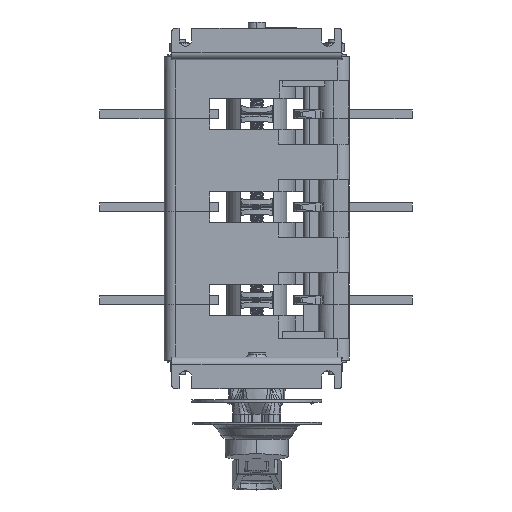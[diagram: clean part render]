
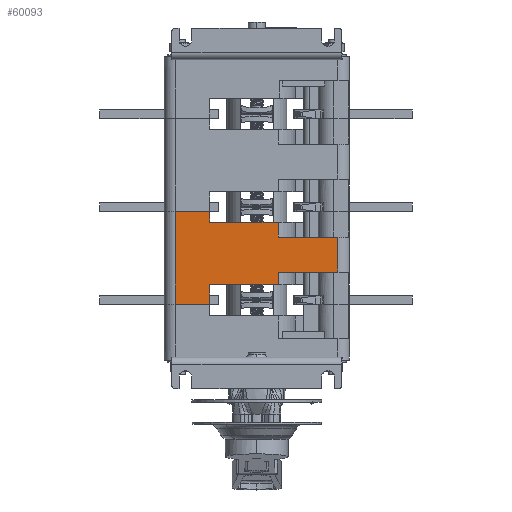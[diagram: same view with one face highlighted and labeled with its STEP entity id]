
A CAD part, front view. The second image highlights one B-rep face of the part: STEP entity #60093.
In plain terms, the highlighted planar face has unit normal (0, -1, 0).
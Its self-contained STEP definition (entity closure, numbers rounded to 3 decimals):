
#758 = VECTOR ( 'NONE', #7966, 1000. ) ;
#4444 = VERTEX_POINT ( 'NONE', #81368 ) ;
#4817 = CARTESIAN_POINT ( 'NONE',  ( -33., -27., -32.5 ) ) ;
#4883 = EDGE_LOOP ( 'NONE', ( #97080, #54605, #73199, #43533, #97309, #19142, #37224, #47889, #20757, #40266, #58598, #76627 ) ) ;
#7966 = DIRECTION ( 'NONE',  ( -1., 0., 0. ) ) ;
#8040 = CARTESIAN_POINT ( 'NONE',  ( -57., -27., -32.5 ) ) ;
#8458 = LINE ( 'NONE', #28377, #36371 ) ;
#8998 = CARTESIAN_POINT ( 'NONE',  ( -33., -27., -19. ) ) ;
#11296 = CARTESIAN_POINT ( 'NONE',  ( -33., -27., 32.5 ) ) ;
#12311 = DIRECTION ( 'NONE',  ( 0., 0., 1. ) ) ;
#12613 = CARTESIAN_POINT ( 'NONE',  ( -57., -27., 25. ) ) ;
#17394 = CARTESIAN_POINT ( 'NONE',  ( 15., -27., -10. ) ) ;
#19142 = ORIENTED_EDGE ( 'NONE', *, *, #67519, .T. ) ;
#19233 = VECTOR ( 'NONE', #49336, 1000. ) ;
#19665 = CARTESIAN_POINT ( 'NONE',  ( -57., -27., 32.5 ) ) ;
#19833 = DIRECTION ( 'NONE',  ( 0., 0., -1. ) ) ;
#19969 = LINE ( 'NONE', #11296, #103696 ) ;
#20757 = ORIENTED_EDGE ( 'NONE', *, *, #39747, .F. ) ;
#24660 = VECTOR ( 'NONE', #106956, 1000. ) ;
#28377 = CARTESIAN_POINT ( 'NONE',  ( -57., -27., 25. ) ) ;
#29608 = DIRECTION ( 'NONE',  ( 0., 0., -1. ) ) ;
#31725 = CARTESIAN_POINT ( 'NONE',  ( -57., -27., -32.5 ) ) ;
#34791 = CARTESIAN_POINT ( 'NONE',  ( 57., -27., -10. ) ) ;
#36371 = VECTOR ( 'NONE', #46776, 1000. ) ;
#36832 = DIRECTION ( 'NONE',  ( 0., 0., 1. ) ) ;
#37224 = ORIENTED_EDGE ( 'NONE', *, *, #40670, .F. ) ;
#37447 = CARTESIAN_POINT ( 'NONE',  ( 57., -27., 25. ) ) ;
#38352 = CARTESIAN_POINT ( 'NONE',  ( 57., -27., 14.5 ) ) ;
#38463 = VERTEX_POINT ( 'NONE', #34791 ) ;
#39747 = EDGE_CURVE ( 'NONE', #79931, #64682, #41429, .T. ) ;
#40064 = LINE ( 'NONE', #72592, #24660 ) ;
#40266 = ORIENTED_EDGE ( 'NONE', *, *, #94864, .T. ) ;
#40670 = EDGE_CURVE ( 'NONE', #107066, #88555, #98628, .T. ) ;
#41011 = VERTEX_POINT ( 'NONE', #17394 ) ;
#41429 = LINE ( 'NONE', #8998, #105737 ) ;
#41432 = CARTESIAN_POINT ( 'NONE',  ( -33., -27., 32.5 ) ) ;
#42452 = EDGE_CURVE ( 'NONE', #84436, #4444, #62795, .T. ) ;
#43533 = ORIENTED_EDGE ( 'NONE', *, *, #65062, .F. ) ;
#44746 = DIRECTION ( 'NONE',  ( 1., 0., 0. ) ) ;
#45260 = VERTEX_POINT ( 'NONE', #38352 ) ;
#46776 = DIRECTION ( 'NONE',  ( 0., 0., -1. ) ) ;
#47889 = ORIENTED_EDGE ( 'NONE', *, *, #104141, .T. ) ;
#48230 = LINE ( 'NONE', #71260, #97028 ) ;
#49336 = DIRECTION ( 'NONE',  ( 0., 0., 1. ) ) ;
#49440 = DIRECTION ( 'NONE',  ( 0., 1., 0. ) ) ;
#52776 = LINE ( 'NONE', #111388, #19233 ) ;
#54287 = EDGE_CURVE ( 'NONE', #38463, #41011, #92651, .T. ) ;
#54605 = ORIENTED_EDGE ( 'NONE', *, *, #84256, .T. ) ;
#55311 = VERTEX_POINT ( 'NONE', #19665 ) ;
#55657 = LINE ( 'NONE', #71199, #114196 ) ;
#57288 = PLANE ( 'NONE',  #74241 ) ;
#58360 = DIRECTION ( 'NONE',  ( 1., 0., 0. ) ) ;
#58598 = ORIENTED_EDGE ( 'NONE', *, *, #54287, .F. ) ;
#60093 = ADVANCED_FACE ( 'NONE', ( #86443 ), #57288, .F. ) ;
#60957 = LINE ( 'NONE', #37447, #105627 ) ;
#62795 = LINE ( 'NONE', #12613, #83611 ) ;
#64682 = VERTEX_POINT ( 'NONE', #109331 ) ;
#65062 = EDGE_CURVE ( 'NONE', #66704, #84436, #19969, .T. ) ;
#65866 = CARTESIAN_POINT ( 'NONE',  ( -57., -27., 25. ) ) ;
#66704 = VERTEX_POINT ( 'NONE', #41432 ) ;
#67519 = EDGE_CURVE ( 'NONE', #55311, #88555, #8458, .T. ) ;
#71199 = CARTESIAN_POINT ( 'NONE',  ( -33., -27., -32.5 ) ) ;
#71260 = CARTESIAN_POINT ( 'NONE',  ( -57., -27., 32.5 ) ) ;
#72592 = CARTESIAN_POINT ( 'NONE',  ( 15., -27., 14.5 ) ) ;
#73199 = ORIENTED_EDGE ( 'NONE', *, *, #42452, .F. ) ;
#74241 = AXIS2_PLACEMENT_3D ( 'NONE', #65866, #49440, #12311 ) ;
#76627 = ORIENTED_EDGE ( 'NONE', *, *, #111183, .F. ) ;
#79931 = VERTEX_POINT ( 'NONE', #93521 ) ;
#81156 = CARTESIAN_POINT ( 'NONE',  ( 15., -27., -10. ) ) ;
#81368 = CARTESIAN_POINT ( 'NONE',  ( 15., -27., 25. ) ) ;
#81411 = CARTESIAN_POINT ( 'NONE',  ( -33., -27., 25. ) ) ;
#81541 = DIRECTION ( 'NONE',  ( -1., 0., 0. ) ) ;
#81880 = LINE ( 'NONE', #108763, #84608 ) ;
#83611 = VECTOR ( 'NONE', #58360, 1000. ) ;
#84256 = EDGE_CURVE ( 'NONE', #109190, #4444, #81880, .T. ) ;
#84436 = VERTEX_POINT ( 'NONE', #81411 ) ;
#84608 = VECTOR ( 'NONE', #89598, 1000. ) ;
#86443 = FACE_OUTER_BOUND ( 'NONE', #4883, .T. ) ;
#88555 = VERTEX_POINT ( 'NONE', #8040 ) ;
#89598 = DIRECTION ( 'NONE',  ( 0., 0., 1. ) ) ;
#91221 = VECTOR ( 'NONE', #81541, 1000. ) ;
#92651 = LINE ( 'NONE', #81156, #91221 ) ;
#93521 = CARTESIAN_POINT ( 'NONE',  ( 15., -27., -19. ) ) ;
#94864 = EDGE_CURVE ( 'NONE', #79931, #41011, #52776, .T. ) ;
#95780 = EDGE_CURVE ( 'NONE', #109190, #45260, #40064, .T. ) ;
#97028 = VECTOR ( 'NONE', #44746, 1000. ) ;
#97080 = ORIENTED_EDGE ( 'NONE', *, *, #95780, .F. ) ;
#97309 = ORIENTED_EDGE ( 'NONE', *, *, #113459, .F. ) ;
#97578 = DIRECTION ( 'NONE',  ( -1., 0., 0. ) ) ;
#98437 = CARTESIAN_POINT ( 'NONE',  ( 15., -27., 14.5 ) ) ;
#98628 = LINE ( 'NONE', #31725, #758 ) ;
#103696 = VECTOR ( 'NONE', #29608, 1000. ) ;
#104141 = EDGE_CURVE ( 'NONE', #107066, #64682, #55657, .T. ) ;
#105627 = VECTOR ( 'NONE', #19833, 1000. ) ;
#105737 = VECTOR ( 'NONE', #97578, 1000. ) ;
#106956 = DIRECTION ( 'NONE',  ( 1., 0., 0. ) ) ;
#107066 = VERTEX_POINT ( 'NONE', #4817 ) ;
#108763 = CARTESIAN_POINT ( 'NONE',  ( 15., -27., 14.5 ) ) ;
#109190 = VERTEX_POINT ( 'NONE', #98437 ) ;
#109331 = CARTESIAN_POINT ( 'NONE',  ( -33., -27., -19. ) ) ;
#111183 = EDGE_CURVE ( 'NONE', #45260, #38463, #60957, .T. ) ;
#111388 = CARTESIAN_POINT ( 'NONE',  ( 15., -27., -19. ) ) ;
#113459 = EDGE_CURVE ( 'NONE', #55311, #66704, #48230, .T. ) ;
#114196 = VECTOR ( 'NONE', #36832, 1000. ) ;
